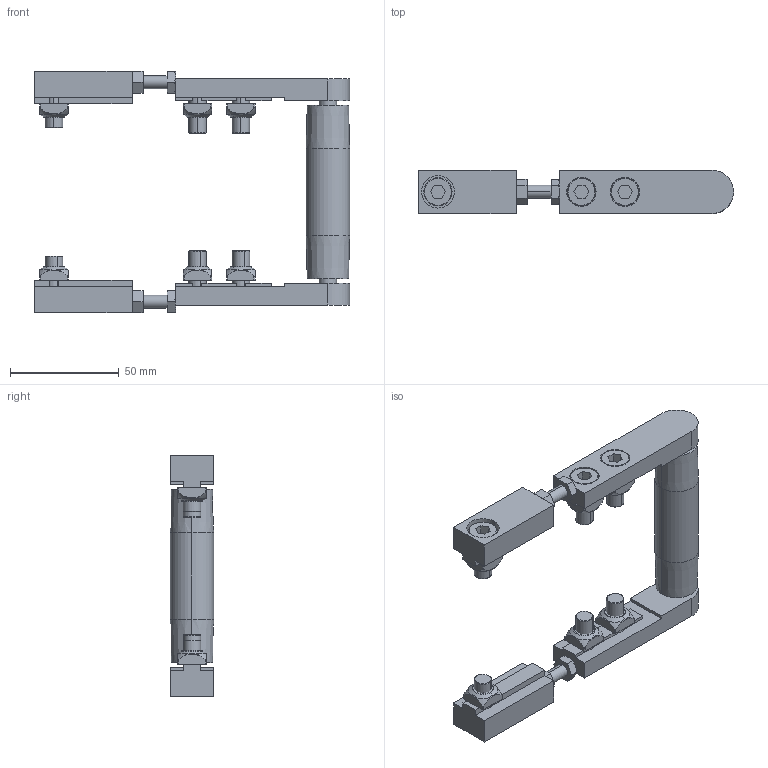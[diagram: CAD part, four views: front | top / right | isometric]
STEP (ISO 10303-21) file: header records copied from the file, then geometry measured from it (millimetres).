
FILE_DESCRIPTION (( 'STEP AP214' ), '1' );
FILE_NAME ('084.020.KI.060.STEP', '2021-02-05T13:51:11', ( '' ), ( '' ), 'SwSTEP 2.0', 'SolidWorks 2018', '' );
FILE_SCHEMA (( 'AUTOMOTIVE_DESIGN' ));
Length unit declared in the file: millimetre
Products named in the file (10): 084.800.012; 084.800.007; 084.800.008; 084.020.KI.060; 084.802.008; 084.800.047; 084.302.000 DADI ALUSIC 13x13-1_084.302.004; 084.800.002; 084.301.000 VITI ALUSIC_084.301.003; Circlip DIN 471 - 8 x 0.8_Circlip DIN 471 - 8 x 0.8
Assembly tree (27 placements, depth 2):
  084.020.KI.060
    084.802.008  x2
    084.301.000 VITI ALUSIC_084.301.003  x6
    084.302.000 DADI ALUSIC 13x13-1_084.302.004  x6
    084.800.047
    084.800.012  x4
    084.800.008  x2
    084.800.002  x2
    084.800.007  x2
    Circlip DIN 471 - 8 x 0.8_Circlip DIN 471 - 8 x 0.8  x2
Bounding box: 145 x 20 x 111 mm (x, y, z)
Volume: 77797.2 mm3; surface area: 51095.2 mm2
Topology: 31 solids, 31 shells, 664 faces, 1564 edges, 998 vertices
Faces by surface type: plane 262, cylinder 210, torus 112, cone 56, bspline 24
Entity records: 7452 total; most frequent: CARTESIAN_POINT 1561, DIRECTION 1208, ORIENTED_EDGE 1048, EDGE_CURVE 524, AXIS2_PLACEMENT_3D 474, VERTEX_POINT 337, LINE 260, VECTOR 260
